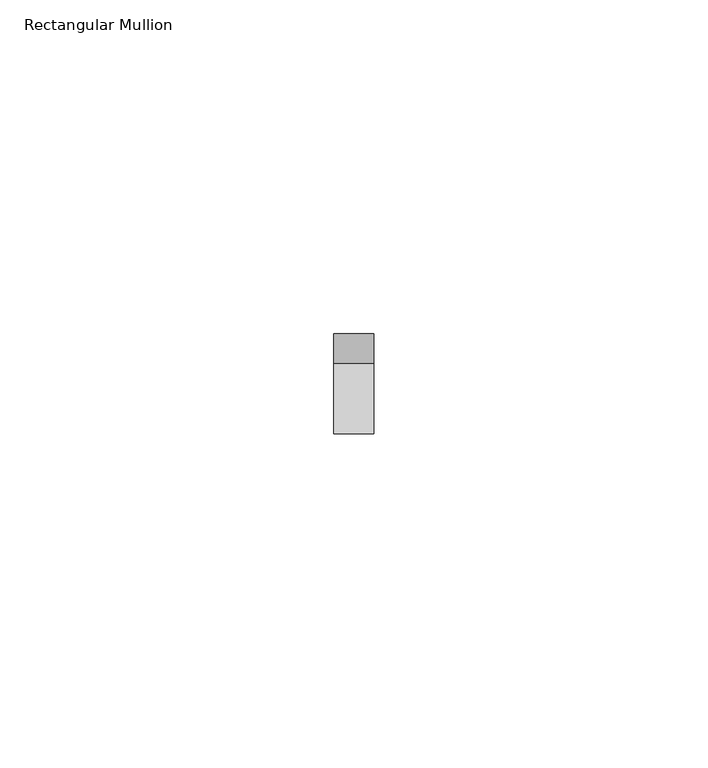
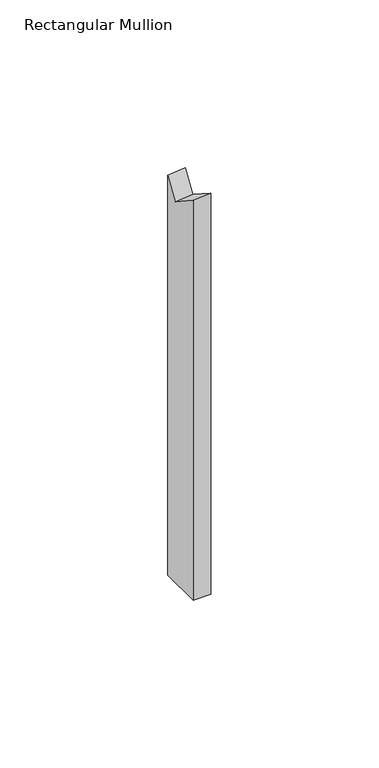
"""IFC4 building model written with IfcOpenShell, lengths in millimetres: member geometry, Rectangular Mullion : ARQ_HERR_15X6mm."""

from ifc_helpers import new_model, si_unit, origin, place, context, project, spatial, faceted_brep, source, transform, mapped, element, save


def rectangular_mullion_85fed397(model_context):
    return source(origin(), model_context, "Body", "Brep", [
        faceted_brep([(0.0, 7.5, -148.0338449), (0.0, -7.5, -148.0338449), (-6.0, -7.5, -148.0338449), (-6.0, 7.5, -148.0338449), (-6.0, 7.5, -2.6917851), (0.0, 7.5, -2.2077102), (-6.0, -7.5, -2.806272), (-6.0, 3.0692186, -9.6147402), (0.0, -7.5, -2.3221971), (0.0, 3.0692186, -9.1306652)], [[[0, 1, 2, 3]], [[4, 5, 0, 3]], [[6, 7, 4, 3, 2]], [[8, 6, 2, 1]], [[5, 9, 8, 1, 0]], [[5, 4, 7, 9]], [[7, 6, 8, 9]]]),
    ])


if __name__ == "__main__":
    model = new_model("IFC4")
    model_context = context("Model", 3, world=origin())
    ifc_project = project(units=[si_unit("LENGTHUNIT", "METRE", prefix="MILLI")], contexts=[model_context])
    site = spatial("IfcSite", under=ifc_project)
    building = spatial("IfcBuilding", under=site)
    placement = place(None, origin())
    rectangular_mullion_shape = rectangular_mullion_85fed397(model_context)
    element("IfcMember", 1, ObjectType="Rectangular Mullion : ARQ_HERR_15X6mm", at=placement, inside=building, context=model_context, shape_type="MappedRepresentation", body=[
        mapped(rectangular_mullion_shape, transform((0.0, 0.0, 0.0), x_axis=(1.0, 0.0, 0.0), y_axis=(0.0, 1.0, 0.0), z_axis=(0.0, 0.0, 1.0))),
    ])
    save(model, "model.ifc")
